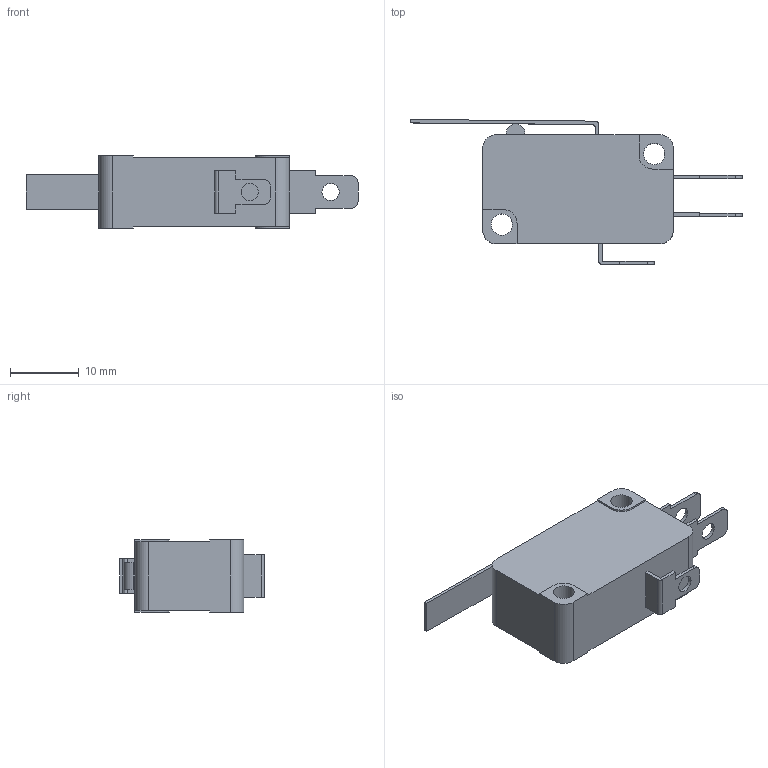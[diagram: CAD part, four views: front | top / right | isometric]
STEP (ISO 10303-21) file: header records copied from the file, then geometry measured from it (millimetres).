
FILE_DESCRIPTION(/* description */ (''),/* implementation_level */ '2;1');
FILE_NAME(/* name */ 'E:\Inventor 2016\제품 외형도\(완료) 리미트 스위치\소형 마이크로 스위치 (V형)\YS L2-15C.stp',/* time_stamp */ '2019-04-09T10:04:16+09:00',/* author */ ('Kim'),/* organization */ (''),/* preprocessor_version */ 'ST-DEVELOPER v16.1',/* originating_system */ 'Autodesk Inventor 2016',/* authorisation */ '');
FILE_SCHEMA (('AUTOMOTIVE_DESIGN { 1 0 10303 214 3 1 1 }'));
Length unit declared in the file: millimetre
Products named in the file (1): YS L2-15C
Bounding box: 48.4 x 21.13 x 10.5 mm (x, y, z)
Volume: 4390.1 mm3; surface area: 2756.1 mm2
Topology: 2 solids, 2 shells, 92 faces, 246 edges, 164 vertices
Faces by surface type: plane 69, cylinder 23
Full cylindrical faces by diameter (mm): 2.5 x3, 3.1 x2
Entity records: 2942 total; most frequent: CARTESIAN_POINT 498, ORIENTED_EDGE 482, DIRECTION 473, EDGE_CURVE 241, LINE 195, VECTOR 195, VERTEX_POINT 164, AXIS2_PLACEMENT_3D 139
